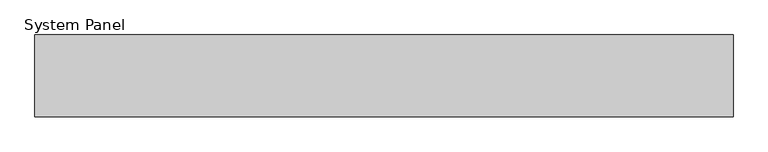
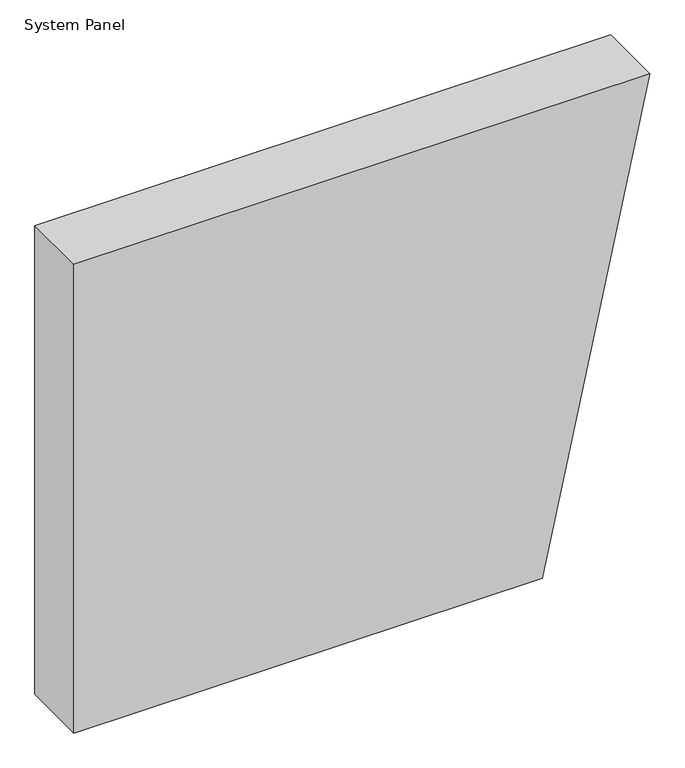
"""IFC4 building model written with IfcOpenShell, lengths in millimetres: plate geometry, System Panel : MetecnoPanel 150mm Horizontal - Plain Astro - PIR."""

from ifc_helpers import new_model, si_unit, frame, origin, place, context, project, spatial, polyline, outline, extrude, source, transform, mapped, element, save


def system_panel_e01370ed(model_context):
    return source(origin(), model_context, "Body", "SweptSolid", [
        extrude(outline(polyline([(0.0, -639.1323567), (0.0, 400.0), (1100.0, 639.1323567), (1100.0, -639.1323567), (0.0, -639.1323567)])), frame((0.0, -150.0, 0.0), z_axis=(0.0, 1.0, 0.0), x_axis=(0.0, 0.0, 1.0)), (0.0, 0.0, 1.0), 150.0),
    ])


if __name__ == "__main__":
    model = new_model("IFC4")
    model_context = context("Model", 3, world=origin())
    ifc_project = project(units=[si_unit("LENGTHUNIT", "METRE", prefix="MILLI")], contexts=[model_context])
    site = spatial("IfcSite", under=ifc_project)
    building = spatial("IfcBuilding", under=site)
    placement = place(None, origin())
    system_panel_shape = system_panel_e01370ed(model_context)
    element("IfcPlate", 1, ObjectType="System Panel : MetecnoPanel 150mm Horizontal - Plain Astro - PIR", at=placement, inside=building, context=model_context, shape_type="MappedRepresentation", body=[
        mapped(system_panel_shape, transform((0.0, 0.0, 0.0), x_axis=(1.0, 0.0, 0.0), y_axis=(0.0, 1.0, 0.0), z_axis=(0.0, 0.0, 1.0))),
    ])
    save(model, "model.ifc")
